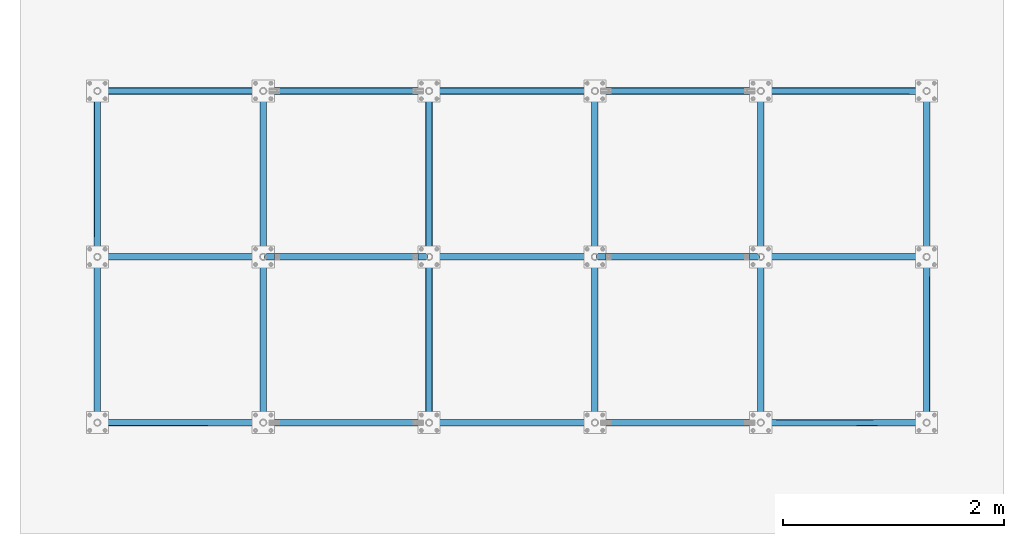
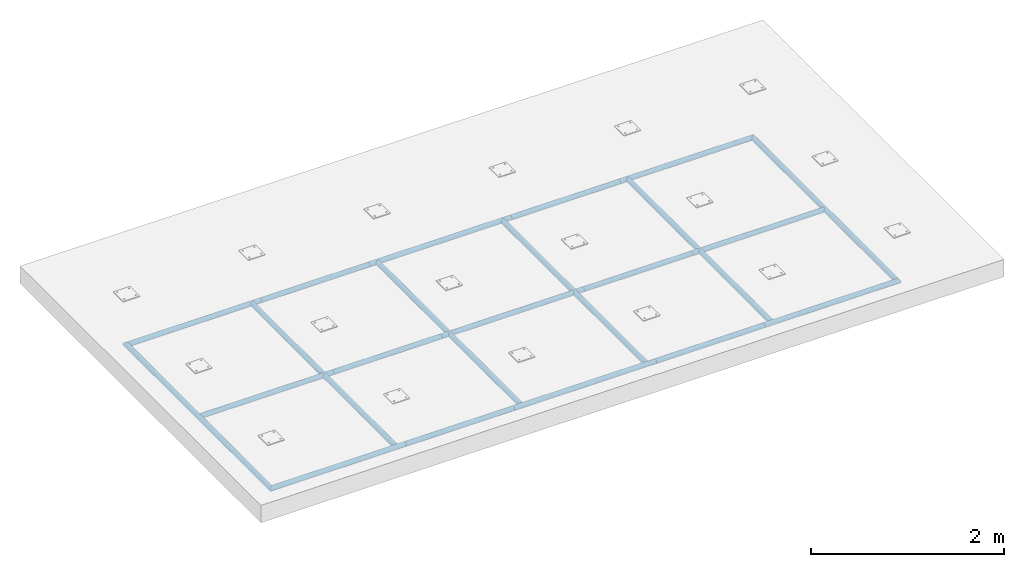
# One storey, part 3 of 30: 25 beams, 30 openings.
"""IFC2X3 building model written with IfcOpenShell, lengths in millimetres."""

from ifc_helpers import new_model, entity, si_unit, converted_unit, frame, frame_2d, origin, origin_with_axes, origin_2d, origin_2d_with_axis, place, context, project, spatial, circle_curve, circle, hollow_circle, outline, extrude, clip, halfspace, material, element, save


model = new_model("IFC2X3")

# Units and contexts
model_context = context("Model", 3, precision=1e-09, world=origin_with_axes())
ifc_project = project(units=[si_unit("LENGTHUNIT", "METRE", prefix="MILLI"), si_unit("AREAUNIT", "SQUARE_METRE"), si_unit("VOLUMEUNIT", "CUBIC_METRE"), converted_unit("PLANEANGLEUNIT", "DEGREE", entity("IfcPlaneAngleMeasure", 0.01745329), si_unit("PLANEANGLEUNIT", "RADIAN"), dimensions=[0, 0, 0, 0, 0, 0, 0])], contexts=[model_context])

# Site, building, storey
site_placement = place(None, origin_with_axes())
site = spatial("IfcSite", under=ifc_project, at=site_placement, Name="M?nsinger Stra?e, 81477 M?nchen", CompositionType="ELEMENT")
building_placement = place(site_placement, origin_with_axes())
building = spatial("IfcBuilding", under=site, at=building_placement, Name="Struktur 1", CompositionType="ELEMENT")
storey_placement = place(building_placement, origin_with_axes())
storey = spatial("IfcBuildingStorey", under=building, at=storey_placement, Name="Default Storey", CompositionType="ELEMENT", Elevation=0.0)

# Beam, openings
ifc_material = material(Name="S235JR")
beam_1_placement = place(None, frame((7363.676578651, 2991.2632594, 6110.0), z_axis=(1.0, 0.0, 0.0), x_axis=(0.0, 1.0, 0.0)))
beam_1 = element("IfcBeam", 1, at=beam_1_placement, inside=storey, material=ifc_material, Name="-", ObjectType="-", context=model_context, shape_type="Clipping", body=[
    clip(clip(extrude(hollow_circle(Radius=30.15, WallThickness=2.6, at=origin_2d()), origin(), (0.0, 0.0, 1.0), 1585.277077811), halfspace(frame((-2991.2632594, -6110.0, 1530.387538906), z_axis=(0.0, 0.0, -1.0), x_axis=(-1.0, 0.0, 0.0)), True)), halfspace(frame((-2991.2632594, -6110.0, 54.889538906), z_axis=(0.0, 0.0, 1.0), x_axis=(1.0, 0.0, 0.0)), True)),
])
opening_1_placement = place(beam_1_placement, frame((-130.25, 0.0, 1512.487538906), z_axis=(-1.0, 0.0, 0.0), x_axis=(0.0, -1.0, 0.0)))
element("IfcOpeningElement", 2, at=opening_1_placement, cuts=beam_1, ObjectType="Opening", context=model_context, shape_type="SweptSolid", body=[
    extrude(outline(circle_curve(frame_2d((0.0, 30.151), x_axis=(1.0, 0.0)), 30.151)), origin(), (0.0, 0.0, -1.0), 260.5),
])
opening_2_placement = place(beam_1_placement, frame((-130.25, 0.0, 12.487538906), z_axis=(-1.0, 0.0, 0.0), x_axis=(0.0, -1.0, 0.0)))
element("IfcOpeningElement", 3, at=opening_2_placement, cuts=beam_1, ObjectType="Opening", context=model_context, shape_type="SweptSolid", body=[
    extrude(outline(circle_curve(frame_2d((0.0, 30.151), x_axis=(1.0, 0.0)), 30.151)), origin(), (0.0, 0.0, -1.0), 260.5),
])

# Beam
beam_2_placement = place(None, frame((1346.015117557, 4491.2632594, 6110.0), z_axis=(-1.0, 0.0, 0.0), x_axis=(0.0, -1.0, 0.0)))
element("IfcBeam", 4, at=beam_2_placement, inside=storey, material=ifc_material, Name="Gel?nder", ObjectType="Gel?nder", context=model_context, shape_type="Clipping", body=[
    clip(extrude(hollow_circle(Radius=30.15, WallThickness=2.6, at=origin_2d()), origin(), (0.0, 0.0, -1.0), 1660.3), halfspace(frame((1542.473363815, -6110.0, -1602.774778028), z_axis=(-0.707106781, 0.0, -0.707106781), x_axis=(-0.707106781, 0.0, 0.707106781)), True)),
])

# Beam, openings
beam_3_placement = place(None, frame((1363.676578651, 2991.2632594, 6110.0), z_axis=(1.0, 0.0, 0.0), x_axis=(0.0, 1.0, 0.0)))
beam_3 = element("IfcBeam", 5, at=beam_3_placement, inside=storey, material=ifc_material, Name="-", ObjectType="-", context=model_context, shape_type="Clipping", body=[
    clip(clip(extrude(hollow_circle(Radius=30.15, WallThickness=2.6, at=origin_2d()), origin(), (0.0, 0.0, 1.0), 1585.277077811), halfspace(frame((-2991.2632594, -6110.0, 1530.387538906), z_axis=(0.0, 0.0, -1.0), x_axis=(-1.0, 0.0, 0.0)), True)), halfspace(frame((-2991.2632594, -6110.0, 54.889538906), z_axis=(0.0, 0.0, 1.0), x_axis=(1.0, 0.0, 0.0)), True)),
])
opening_3_placement = place(beam_3_placement, frame((-130.25, 0.0, 1512.487538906), z_axis=(-1.0, 0.0, 0.0), x_axis=(0.0, -1.0, 0.0)))
element("IfcOpeningElement", 6, at=opening_3_placement, cuts=beam_3, ObjectType="Opening", context=model_context, shape_type="SweptSolid", body=[
    extrude(outline(circle_curve(frame_2d((0.0, 30.151), x_axis=(1.0, 0.0)), 30.151)), origin(), (0.0, 0.0, -1.0), 260.5),
])
opening_4_placement = place(beam_3_placement, frame((-130.25, 0.0, 12.487538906), z_axis=(-1.0, 0.0, 0.0), x_axis=(0.0, -1.0, 0.0)))
element("IfcOpeningElement", 7, at=opening_4_placement, cuts=beam_3, ObjectType="Opening", context=model_context, shape_type="SweptSolid", body=[
    extrude(outline(circle_curve(frame_2d((0.0, 30.151), x_axis=(1.0, 0.0)), 30.151)), origin(), (0.0, 0.0, -1.0), 260.5),
])

# Beams
beam_4_placement = place(None, frame((1406.315117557, 4551.5632594, 6110.0), z_axis=(0.0, -1.0, 0.0), x_axis=(1.0, 0.0, 0.0)))
element("IfcBeam", 8, at=beam_4_placement, inside=storey, material=ifc_material, Name="-", ObjectType="-", context=model_context, shape_type="Clipping", body=[
    clip(clip(extrude(hollow_circle(Radius=30.15, WallThickness=2.6, at=origin_2d()), origin(), (0.0, 0.0, 1.0), 3120.6), halfspace(frame((1542.473363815, -6110.0, 1602.774778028), z_axis=(-0.707106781, 0.0, 0.707106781), x_axis=(0.707106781, 0.0, 0.707106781)), True)), halfspace(frame((-1448.789895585, -6110.0, 4509.088481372), z_axis=(-0.707106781, 0.0, -0.707106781), x_axis=(-0.707106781, 0.0, 0.707106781)), True)),
])
beam_5_placement = place(None, frame((4306.315117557, 4491.2632594, 6110.0), z_axis=(-1.0, 0.0, 0.0), x_axis=(0.0, -1.0, 0.0)))
element("IfcBeam", 9, at=beam_5_placement, inside=storey, material=ifc_material, Name="Gel?nder", ObjectType="Gel?nder", context=model_context, shape_type="SweptSolid", body=[
    extrude(hollow_circle(Radius=30.15, WallThickness=2.6, at=origin_2d()), origin(), (0.0, 0.0, -1.0), 1700.0),
])

# Beam, opening
beam_6_placement = place(None, frame((5863.676578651, 2991.2632594, 6110.0), z_axis=(1.0, 0.0, 0.0), x_axis=(0.0, 1.0, 0.0)))
beam_6 = element("IfcBeam", 10, at=beam_6_placement, inside=storey, material=ifc_material, Name="-", ObjectType="-", context=model_context, shape_type="Clipping", body=[
    clip(extrude(hollow_circle(Radius=30.15, WallThickness=2.6, at=origin_2d()), origin(), (0.0, 0.0, 1.0), 142.638538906), halfspace(frame((-2991.2632594, -6110.0, 54.889538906), z_axis=(0.0, 0.0, 1.0), x_axis=(1.0, 0.0, 0.0)), True)),
])
opening_5_placement = place(beam_6_placement, frame((-130.25, 0.0, 12.487538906), z_axis=(-1.0, 0.0, 0.0), x_axis=(0.0, -1.0, 0.0)))
element("IfcOpeningElement", 11, at=opening_5_placement, cuts=beam_6, ObjectType="Opening", context=model_context, shape_type="SweptSolid", body=[
    extrude(outline(circle_curve(frame_2d((0.0, 30.151), x_axis=(1.0, 0.0)), 30.151)), origin(), (0.0, 0.0, -1.0), 260.5),
])

# Beam, openings
beam_7_placement = place(None, frame((5906.315117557, 4533.901798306, 6110.0), z_axis=(0.0, 1.0, 0.0), x_axis=(-1.0, 0.0, 0.0)))
beam_7 = element("IfcBeam", 12, at=beam_7_placement, inside=storey, material=ifc_material, Name="-", ObjectType="-", context=model_context, shape_type="Clipping", body=[
    clip(clip(extrude(hollow_circle(Radius=30.15, WallThickness=2.6, at=origin_2d()), origin(), (0.0, 0.0, -1.0), 3085.277077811), halfspace(frame((5906.315117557, -6110.0, -54.889538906), z_axis=(0.0, 0.0, -1.0), x_axis=(-1.0, 0.0, 0.0)), True)), halfspace(frame((5906.315117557, -6110.0, -3030.387538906), z_axis=(0.0, 0.0, 1.0), x_axis=(1.0, 0.0, 0.0)), True)),
])
opening_6_placement = place(beam_7_placement, frame((-130.25, 0.0, -42.638538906), z_axis=(1.0, 0.0, 0.0), x_axis=(0.0, 1.0, 0.0)))
element("IfcOpeningElement", 13, at=opening_6_placement, cuts=beam_7, ObjectType="Opening", context=model_context, shape_type="SweptSolid", body=[
    extrude(outline(circle_curve(origin_2d_with_axis(), 30.151)), origin(), (0.0, 0.0, 1.0), 260.5),
])
opening_7_placement = place(beam_7_placement, frame((-130.25, 0.0, -3042.638538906), z_axis=(1.0, 0.0, 0.0), x_axis=(0.0, 1.0, 0.0)))
element("IfcOpeningElement", 14, at=opening_7_placement, cuts=beam_7, ObjectType="Opening", context=model_context, shape_type="SweptSolid", body=[
    extrude(outline(circle_curve(origin_2d_with_axis(), 30.151)), origin(), (0.0, 0.0, 1.0), 260.5),
])

beam_8_placement = place(None, frame((4363.676578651, 2991.2632594, 6110.0), z_axis=(1.0, 0.0, 0.0), x_axis=(0.0, 1.0, 0.0)))
beam_8 = element("IfcBeam", 15, at=beam_8_placement, inside=storey, material=ifc_material, Name="-", ObjectType="-", context=model_context, shape_type="Clipping", body=[
    clip(clip(extrude(hollow_circle(Radius=30.15, WallThickness=2.6, at=origin_2d()), origin(), (0.0, 0.0, 1.0), 1585.277077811), halfspace(frame((-2991.2632594, -6110.0, 1530.387538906), z_axis=(0.0, 0.0, -1.0), x_axis=(-1.0, 0.0, 0.0)), True)), halfspace(frame((-2991.2632594, -6110.0, 54.889538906), z_axis=(0.0, 0.0, 1.0), x_axis=(1.0, 0.0, 0.0)), True)),
])
opening_8_placement = place(beam_8_placement, frame((-130.25, 0.0, 1512.487538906), z_axis=(-1.0, 0.0, 0.0), x_axis=(0.0, -1.0, 0.0)))
element("IfcOpeningElement", 16, at=opening_8_placement, cuts=beam_8, ObjectType="Opening", context=model_context, shape_type="SweptSolid", body=[
    extrude(outline(circle_curve(frame_2d((0.0, 30.151), x_axis=(1.0, 0.0)), 30.151)), origin(), (0.0, 0.0, -1.0), 260.5),
])
opening_9_placement = place(beam_8_placement, frame((-130.25, 0.0, 12.487538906), z_axis=(-1.0, 0.0, 0.0), x_axis=(0.0, -1.0, 0.0)))
element("IfcOpeningElement", 17, at=opening_9_placement, cuts=beam_8, ObjectType="Opening", context=model_context, shape_type="SweptSolid", body=[
    extrude(outline(circle_curve(frame_2d((0.0, 30.151), x_axis=(1.0, 0.0)), 30.151)), origin(), (0.0, 0.0, -1.0), 260.5),
])

# Beam, opening
beam_9_placement = place(None, frame((4448.953656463, 2991.2632594, 6110.0), z_axis=(1.0, 0.0, 0.0), x_axis=(0.0, 1.0, 0.0)))
beam_9 = element("IfcBeam", 18, at=beam_9_placement, inside=storey, material=ifc_material, Name="-", ObjectType="-", context=model_context, shape_type="Clipping", body=[
    clip(extrude(hollow_circle(Radius=30.15, WallThickness=2.6, at=origin_2d()), origin(), (0.0, 0.0, -1.0), 142.638538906), halfspace(frame((-2991.2632594, -6110.0, -54.889538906), z_axis=(0.0, 0.0, -1.0), x_axis=(-1.0, 0.0, 0.0)), True)),
])
opening_10_placement = place(beam_9_placement, frame((130.25, 0.0, -42.638538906), z_axis=(-1.0, 0.0, 0.0), x_axis=(0.0, 0.0, 1.0)))
element("IfcOpeningElement", 19, at=opening_10_placement, cuts=beam_9, ObjectType="Opening", context=model_context, shape_type="SweptSolid", body=[
    extrude(outline(circle_curve(origin_2d_with_axis(), 30.151)), origin(), (0.0, 0.0, 1.0), 260.5),
])

# Beam
beam_10_placement = place(None, frame((6006.315117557, 1491.2632594, 6110.0), z_axis=(1.0, 0.0, 0.0), x_axis=(0.0, 1.0, 0.0)))
element("IfcBeam", 20, at=beam_10_placement, inside=storey, material=ifc_material, Name="-", ObjectType="-", context=model_context, shape_type="SweptSolid", body=[
    extrude(hollow_circle(Radius=30.15, WallThickness=2.6, at=origin_2d()), origin(), (0.0, 0.0, -1.0), 1700.0),
])

# Beam, openings
beam_11_placement = place(None, frame((4406.315117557, 4533.901798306, 6110.0), z_axis=(0.0, 1.0, 0.0), x_axis=(-1.0, 0.0, 0.0)))
beam_11 = element("IfcBeam", 21, at=beam_11_placement, inside=storey, material=ifc_material, Name="-", ObjectType="-", context=model_context, shape_type="Clipping", body=[
    clip(clip(extrude(hollow_circle(Radius=30.15, WallThickness=2.6, at=origin_2d()), origin(), (0.0, 0.0, -1.0), 3085.277077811), halfspace(frame((4406.315117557, -6110.0, -54.889538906), z_axis=(0.0, 0.0, -1.0), x_axis=(-1.0, 0.0, 0.0)), True)), halfspace(frame((4406.315117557, -6110.0, -3030.387538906), z_axis=(0.0, 0.0, 1.0), x_axis=(1.0, 0.0, 0.0)), True)),
])
opening_11_placement = place(beam_11_placement, frame((-130.25, 0.0, -3042.638538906), z_axis=(1.0, 0.0, 0.0), x_axis=(0.0, 1.0, 0.0)))
element("IfcOpeningElement", 22, at=opening_11_placement, cuts=beam_11, ObjectType="Opening", context=model_context, shape_type="SweptSolid", body=[
    extrude(outline(circle_curve(origin_2d_with_axis(), 30.151)), origin(), (0.0, 0.0, 1.0), 260.5),
])
opening_12_placement = place(beam_11_placement, frame((-130.25, 0.0, -42.638538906), z_axis=(1.0, 0.0, 0.0), x_axis=(0.0, 1.0, 0.0)))
element("IfcOpeningElement", 23, at=opening_12_placement, cuts=beam_11, ObjectType="Opening", context=model_context, shape_type="SweptSolid", body=[
    extrude(outline(circle_curve(origin_2d_with_axis(), 30.151)), origin(), (0.0, 0.0, 1.0), 260.5),
])

# Beam, opening
beam_12_placement = place(None, frame((2863.676578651, 2991.2632594, 6110.0), z_axis=(1.0, 0.0, 0.0), x_axis=(0.0, 1.0, 0.0)))
beam_12 = element("IfcBeam", 24, at=beam_12_placement, inside=storey, material=ifc_material, Name="-", ObjectType="-", context=model_context, shape_type="Clipping", body=[
    clip(extrude(hollow_circle(Radius=30.15, WallThickness=2.6, at=origin_2d()), origin(), (0.0, 0.0, 1.0), 142.638538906), halfspace(frame((-2991.2632594, -6110.0, 54.889538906), z_axis=(0.0, 0.0, 1.0), x_axis=(1.0, 0.0, 0.0)), True)),
])
opening_13_placement = place(beam_12_placement, frame((-130.25, 0.0, 12.487538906), z_axis=(-1.0, 0.0, 0.0), x_axis=(0.0, -1.0, 0.0)))
element("IfcOpeningElement", 25, at=opening_13_placement, cuts=beam_12, ObjectType="Opening", context=model_context, shape_type="SweptSolid", body=[
    extrude(outline(circle_curve(frame_2d((0.0, 30.151), x_axis=(1.0, 0.0)), 30.151)), origin(), (0.0, 0.0, -1.0), 260.5),
])

# Beam
beam_13_placement = place(None, frame((1346.015117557, 1491.2632594, 6110.0), z_axis=(1.0, 0.0, 0.0), x_axis=(0.0, 1.0, 0.0)))
element("IfcBeam", 26, at=beam_13_placement, inside=storey, material=ifc_material, Name="-", ObjectType="-", context=model_context, shape_type="Clipping", body=[
    clip(extrude(hollow_circle(Radius=30.15, WallThickness=2.6, at=origin_2d()), origin(), (0.0, 0.0, 1.0), 1660.3), halfspace(frame((-1448.789895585, -6110.0, -1388.488481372), z_axis=(-0.707106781, 0.0, 0.707106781), x_axis=(0.707106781, 0.0, 0.707106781)), True)),
])

# Beam, openings
beam_14_placement = place(None, frame((2906.315117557, 4533.901798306, 6110.0), z_axis=(0.0, 1.0, 0.0), x_axis=(-1.0, 0.0, 0.0)))
beam_14 = element("IfcBeam", 27, at=beam_14_placement, inside=storey, material=ifc_material, Name="-", ObjectType="-", context=model_context, shape_type="Clipping", body=[
    clip(clip(extrude(hollow_circle(Radius=30.15, WallThickness=2.6, at=origin_2d()), origin(), (0.0, 0.0, -1.0), 3085.277077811), halfspace(frame((2906.315117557, -6110.0, -54.889538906), z_axis=(0.0, 0.0, -1.0), x_axis=(-1.0, 0.0, 0.0)), True)), halfspace(frame((2906.315117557, -6110.0, -3030.387538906), z_axis=(0.0, 0.0, 1.0), x_axis=(1.0, 0.0, 0.0)), True)),
])
opening_14_placement = place(beam_14_placement, frame((-130.25, 0.0, -42.638538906), z_axis=(1.0, 0.0, 0.0), x_axis=(0.0, 1.0, 0.0)))
element("IfcOpeningElement", 28, at=opening_14_placement, cuts=beam_14, ObjectType="Opening", context=model_context, shape_type="SweptSolid", body=[
    extrude(outline(circle_curve(origin_2d_with_axis(), 30.151)), origin(), (0.0, 0.0, 1.0), 260.5),
])
opening_15_placement = place(beam_14_placement, frame((-130.25, 0.0, -3042.638538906), z_axis=(1.0, 0.0, 0.0), x_axis=(0.0, 1.0, 0.0)))
element("IfcOpeningElement", 29, at=opening_15_placement, cuts=beam_14, ObjectType="Opening", context=model_context, shape_type="SweptSolid", body=[
    extrude(outline(circle_curve(origin_2d_with_axis(), 30.151)), origin(), (0.0, 0.0, 1.0), 260.5),
])

beam_15_placement = place(None, frame((3006.815117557, 2991.2632594, 6110.0), z_axis=(1.0, 0.0, 0.0), x_axis=(0.0, 1.0, 0.0)))
beam_15 = element("IfcBeam", 30, at=beam_15_placement, inside=storey, material=ifc_material, Name="Girder", ObjectType="Girder", context=model_context, shape_type="SweptSolid", body=[
    extrude(hollow_circle(Radius=30.15, WallThickness=2.6, at=origin_2d()), origin(), (0.0, 0.0, 1.0), 1299.0),
])
opening_16_placement = place(beam_15_placement, frame((0.0, 26.293292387, 1278.50099997), z_axis=(0.0, -1.0, 0.0), x_axis=(1.0, 0.0, 0.0)))
element("IfcOpeningElement", 31, at=opening_16_placement, cuts=beam_15, ObjectType="Opening", context=model_context, shape_type="SweptSolid", body=[
    extrude(circle(Radius=4.001, at=frame_2d((0.0, -4.001), x_axis=(1.0, 0.0))), origin(), (0.0, 0.0, -1.0), 4.356707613),
])
opening_17_placement = place(beam_15_placement, frame((0.0, 26.293292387, 24.5), z_axis=(0.0, 1.0, 0.0), x_axis=(0.0, 0.0, 1.0)))
element("IfcOpeningElement", 32, at=opening_17_placement, cuts=beam_15, ObjectType="Opening", context=model_context, shape_type="SweptSolid", body=[
    extrude(circle(Radius=4.001, at=origin_2d_with_axis()), origin(), (0.0, 0.0, 1.0), 4.356707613),
])

beam_16_placement = place(None, frame((3006.815117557, 1491.2632594, 6110.0), z_axis=(1.0, 0.0, 0.0), x_axis=(0.0, 1.0, 0.0)))
beam_16 = element("IfcBeam", 33, at=beam_16_placement, inside=storey, material=ifc_material, Name="Girder", ObjectType="Girder", context=model_context, shape_type="SweptSolid", body=[
    extrude(hollow_circle(Radius=30.15, WallThickness=2.6, at=origin_2d()), origin(), (0.0, 0.0, 1.0), 1299.0),
])
opening_18_placement = place(beam_16_placement, frame((0.0, 26.293292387, 24.5), z_axis=(0.0, 1.0, 0.0), x_axis=(0.0, 0.0, 1.0)))
element("IfcOpeningElement", 34, at=opening_18_placement, cuts=beam_16, ObjectType="Opening", context=model_context, shape_type="SweptSolid", body=[
    extrude(circle(Radius=4.001, at=origin_2d_with_axis()), origin(), (0.0, 0.0, 1.0), 4.356707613),
])
opening_19_placement = place(beam_16_placement, frame((0.0, 26.293292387, 1278.50099997), z_axis=(0.0, -1.0, 0.0), x_axis=(1.0, 0.0, 0.0)))
element("IfcOpeningElement", 35, at=opening_19_placement, cuts=beam_16, ObjectType="Opening", context=model_context, shape_type="SweptSolid", body=[
    extrude(circle(Radius=4.001, at=frame_2d((0.0, -4.001), x_axis=(1.0, 0.0))), origin(), (0.0, 0.0, -1.0), 4.356707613),
])

beam_17_placement = place(None, frame((3006.815117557, 4491.2632594, 6110.0), z_axis=(1.0, 0.0, 0.0), x_axis=(0.0, 1.0, 0.0)))
beam_17 = element("IfcBeam", 36, at=beam_17_placement, inside=storey, material=ifc_material, Name="Girder", ObjectType="Girder", context=model_context, shape_type="SweptSolid", body=[
    extrude(hollow_circle(Radius=30.15, WallThickness=2.6, at=origin_2d()), origin(), (0.0, 0.0, 1.0), 1299.0),
])
opening_20_placement = place(beam_17_placement, frame((0.0, 26.293292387, 1278.50099997), z_axis=(0.0, -1.0, 0.0), x_axis=(1.0, 0.0, 0.0)))
element("IfcOpeningElement", 37, at=opening_20_placement, cuts=beam_17, ObjectType="Opening", context=model_context, shape_type="SweptSolid", body=[
    extrude(circle(Radius=4.001, at=frame_2d((0.0, -4.001), x_axis=(1.0, 0.0))), origin(), (0.0, 0.0, -1.0), 4.356707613),
])
opening_21_placement = place(beam_17_placement, frame((0.0, 26.293292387, 24.5), z_axis=(0.0, 1.0, 0.0), x_axis=(0.0, 0.0, 1.0)))
element("IfcOpeningElement", 38, at=opening_21_placement, cuts=beam_17, ObjectType="Opening", context=model_context, shape_type="SweptSolid", body=[
    extrude(circle(Radius=4.001, at=origin_2d_with_axis()), origin(), (0.0, 0.0, 1.0), 4.356707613),
])

beam_18_placement = place(None, frame((6006.815117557, 2991.2632594, 6110.0), z_axis=(1.0, 0.0, 0.0), x_axis=(0.0, 1.0, 0.0)))
beam_18 = element("IfcBeam", 39, at=beam_18_placement, inside=storey, material=ifc_material, Name="Girder", ObjectType="Girder", context=model_context, shape_type="SweptSolid", body=[
    extrude(hollow_circle(Radius=30.15, WallThickness=2.6, at=origin_2d()), origin(), (0.0, 0.0, 1.0), 1299.0),
])
opening_22_placement = place(beam_18_placement, frame((0.0, 26.293292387, 1278.50099997), z_axis=(0.0, -1.0, 0.0), x_axis=(1.0, 0.0, 0.0)))
element("IfcOpeningElement", 40, at=opening_22_placement, cuts=beam_18, ObjectType="Opening", context=model_context, shape_type="SweptSolid", body=[
    extrude(circle(Radius=4.001, at=frame_2d((0.0, -4.001), x_axis=(1.0, 0.0))), origin(), (0.0, 0.0, -1.0), 4.356707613),
])
opening_23_placement = place(beam_18_placement, frame((0.0, 26.293292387, 24.5), z_axis=(0.0, 1.0, 0.0), x_axis=(0.0, 0.0, 1.0)))
element("IfcOpeningElement", 41, at=opening_23_placement, cuts=beam_18, ObjectType="Opening", context=model_context, shape_type="SweptSolid", body=[
    extrude(circle(Radius=4.001, at=origin_2d_with_axis()), origin(), (0.0, 0.0, 1.0), 4.356707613),
])

beam_19_placement = place(None, frame((6006.815117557, 1491.2632594, 6110.0), z_axis=(1.0, 0.0, 0.0), x_axis=(0.0, 1.0, 0.0)))
beam_19 = element("IfcBeam", 42, at=beam_19_placement, inside=storey, material=ifc_material, Name="Girder", ObjectType="Girder", context=model_context, shape_type="SweptSolid", body=[
    extrude(hollow_circle(Radius=30.15, WallThickness=2.6, at=origin_2d()), origin(), (0.0, 0.0, 1.0), 1299.0),
])
opening_24_placement = place(beam_19_placement, frame((0.0, 26.293292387, 1278.50099997), z_axis=(0.0, -1.0, 0.0), x_axis=(1.0, 0.0, 0.0)))
element("IfcOpeningElement", 43, at=opening_24_placement, cuts=beam_19, ObjectType="Opening", context=model_context, shape_type="SweptSolid", body=[
    extrude(circle(Radius=4.001, at=frame_2d((0.0, -4.001), x_axis=(1.0, 0.0))), origin(), (0.0, 0.0, -1.0), 4.356707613),
])
opening_25_placement = place(beam_19_placement, frame((0.0, 26.293292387, 24.5), z_axis=(0.0, 1.0, 0.0), x_axis=(0.0, 0.0, 1.0)))
element("IfcOpeningElement", 44, at=opening_25_placement, cuts=beam_19, ObjectType="Opening", context=model_context, shape_type="SweptSolid", body=[
    extrude(circle(Radius=4.001, at=origin_2d_with_axis()), origin(), (0.0, 0.0, 1.0), 4.356707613),
])

beam_20_placement = place(None, frame((6006.815117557, 4491.2632594, 6110.0), z_axis=(1.0, 0.0, 0.0), x_axis=(0.0, 1.0, 0.0)))
beam_20 = element("IfcBeam", 45, at=beam_20_placement, inside=storey, material=ifc_material, Name="Girder", ObjectType="Girder", context=model_context, shape_type="SweptSolid", body=[
    extrude(hollow_circle(Radius=30.15, WallThickness=2.6, at=origin_2d()), origin(), (0.0, 0.0, 1.0), 1299.0),
])
opening_26_placement = place(beam_20_placement, frame((0.0, 26.293292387, 1278.50099997), z_axis=(0.0, -1.0, 0.0), x_axis=(1.0, 0.0, 0.0)))
element("IfcOpeningElement", 46, at=opening_26_placement, cuts=beam_20, ObjectType="Opening", context=model_context, shape_type="SweptSolid", body=[
    extrude(circle(Radius=4.001, at=frame_2d((0.0, -4.001), x_axis=(1.0, 0.0))), origin(), (0.0, 0.0, -1.0), 4.356707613),
])
opening_27_placement = place(beam_20_placement, frame((0.0, 26.293292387, 24.5), z_axis=(0.0, 1.0, 0.0), x_axis=(0.0, 0.0, 1.0)))
element("IfcOpeningElement", 47, at=opening_27_placement, cuts=beam_20, ObjectType="Opening", context=model_context, shape_type="SweptSolid", body=[
    extrude(circle(Radius=4.001, at=origin_2d_with_axis()), origin(), (0.0, 0.0, 1.0), 4.356707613),
])

# Beam
beam_21_placement = place(None, frame((8966.615117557, 4491.2632594, 6110.0), z_axis=(-1.0, 0.0, 0.0), x_axis=(0.0, -1.0, 0.0)))
element("IfcBeam", 48, at=beam_21_placement, inside=storey, material=ifc_material, Name="Gel?nder", ObjectType="Gel?nder", context=model_context, shape_type="Clipping", body=[
    clip(extrude(hollow_circle(Radius=30.15, WallThickness=2.6, at=origin_2d()), origin(), (0.0, 0.0, 1.0), 1660.3), halfspace(frame((6698.788481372, -6110.0, 6759.089895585), z_axis=(-0.707106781, 0.0, 0.707106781), x_axis=(0.707106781, 0.0, 0.707106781)), True)),
])

# Beam, opening
beam_22_placement = place(None, frame((7448.953656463, 2991.2632594, 6110.0), z_axis=(1.0, 0.0, 0.0), x_axis=(0.0, 1.0, 0.0)))
beam_22 = element("IfcBeam", 49, at=beam_22_placement, inside=storey, material=ifc_material, Name="-", ObjectType="-", context=model_context, shape_type="Clipping", body=[
    clip(extrude(hollow_circle(Radius=30.15, WallThickness=2.6, at=origin_2d()), origin(), (0.0, 0.0, -1.0), 142.638538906), halfspace(frame((-2991.2632594, -6110.0, -54.889538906), z_axis=(0.0, 0.0, -1.0), x_axis=(-1.0, 0.0, 0.0)), True)),
])
opening_28_placement = place(beam_22_placement, frame((130.25, 0.0, -42.638538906), z_axis=(-1.0, 0.0, 0.0), x_axis=(0.0, 0.0, 1.0)))
element("IfcOpeningElement", 50, at=opening_28_placement, cuts=beam_22, ObjectType="Opening", context=model_context, shape_type="SweptSolid", body=[
    extrude(outline(circle_curve(origin_2d_with_axis(), 30.151)), origin(), (0.0, 0.0, 1.0), 260.5),
])

# Beam
beam_23_placement = place(None, frame((8966.615117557, 1491.2632594, 6110.0), z_axis=(1.0, 0.0, 0.0), x_axis=(0.0, 1.0, 0.0)))
element("IfcBeam", 51, at=beam_23_placement, inside=storey, material=ifc_material, Name="-", ObjectType="-", context=model_context, shape_type="Clipping", body=[
    clip(extrude(hollow_circle(Radius=30.15, WallThickness=2.6, at=origin_2d()), origin(), (0.0, 0.0, -1.0), 1660.3), halfspace(frame((3707.525221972, -6110.0, -3767.826636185), z_axis=(-0.707106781, 0.0, -0.707106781), x_axis=(-0.707106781, 0.0, 0.707106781)), True)),
])

# Beam, openings
beam_24_placement = place(None, frame((7406.315117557, 4533.901798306, 6110.0), z_axis=(0.0, 1.0, 0.0), x_axis=(-1.0, 0.0, 0.0)))
beam_24 = element("IfcBeam", 52, at=beam_24_placement, inside=storey, material=ifc_material, Name="-", ObjectType="-", context=model_context, shape_type="Clipping", body=[
    clip(clip(extrude(hollow_circle(Radius=30.15, WallThickness=2.6, at=origin_2d()), origin(), (0.0, 0.0, -1.0), 3085.277077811), halfspace(frame((7406.315117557, -6110.0, -3030.387538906), z_axis=(0.0, 0.0, 1.0), x_axis=(1.0, 0.0, 0.0)), True)), halfspace(frame((7406.315117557, -6110.0, -54.889538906), z_axis=(0.0, 0.0, -1.0), x_axis=(-1.0, 0.0, 0.0)), True)),
])
opening_29_placement = place(beam_24_placement, frame((-130.25, 0.0, -3042.638538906), z_axis=(1.0, 0.0, 0.0), x_axis=(0.0, 1.0, 0.0)))
element("IfcOpeningElement", 53, at=opening_29_placement, cuts=beam_24, ObjectType="Opening", context=model_context, shape_type="SweptSolid", body=[
    extrude(outline(circle_curve(origin_2d_with_axis(), 30.151)), origin(), (0.0, 0.0, 1.0), 260.5),
])
opening_30_placement = place(beam_24_placement, frame((-130.25, 0.0, -42.638538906), z_axis=(1.0, 0.0, 0.0), x_axis=(0.0, 1.0, 0.0)))
element("IfcOpeningElement", 54, at=opening_30_placement, cuts=beam_24, ObjectType="Opening", context=model_context, shape_type="SweptSolid", body=[
    extrude(outline(circle_curve(origin_2d_with_axis(), 30.151)), origin(), (0.0, 0.0, 1.0), 260.5),
])

# Beam
beam_25_placement = place(None, frame((8906.315117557, 4551.5632594, 6110.0), z_axis=(0.0, 1.0, 0.0), x_axis=(-1.0, 0.0, 0.0)))
element("IfcBeam", 55, at=beam_25_placement, inside=storey, material=ifc_material, Name="-", ObjectType="-", context=model_context, shape_type="Clipping", body=[
    clip(clip(extrude(hollow_circle(Radius=30.15, WallThickness=2.6, at=origin_2d()), origin(), (0.0, 0.0, -1.0), 3120.6), halfspace(frame((6698.788481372, -6110.0, -6759.089895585), z_axis=(-0.707106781, 0.0, -0.707106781), x_axis=(-0.707106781, 0.0, 0.707106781)), True)), halfspace(frame((3707.525221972, -6110.0, 647.226636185), z_axis=(-0.707106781, 0.0, 0.707106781), x_axis=(0.707106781, 0.0, 0.707106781)), True)),
])

save(model, "model.ifc")
